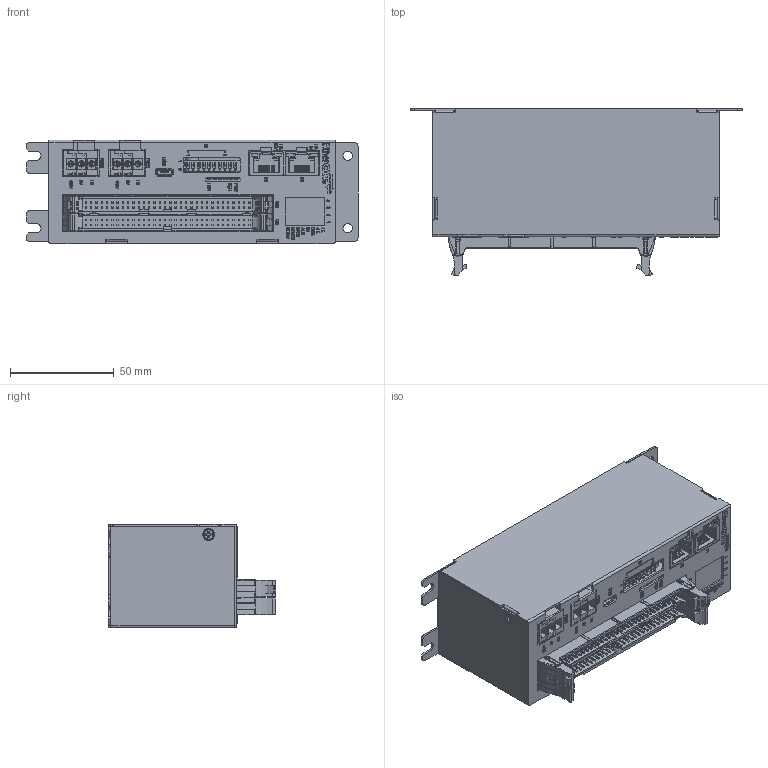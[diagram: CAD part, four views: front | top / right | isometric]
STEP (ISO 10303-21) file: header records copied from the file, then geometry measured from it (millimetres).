
FILE_DESCRIPTION((''),'2;1');
FILE_NAME('ECMM','2026-05-11T16:45:40',('gijyu181'),(''),'CREO PARAMETRIC BY PTC INC, 2018050','CREO PARAMETRIC BY PTC INC, 2018050','');
FILE_SCHEMA(('CONFIG_CONTROL_DESIGN','SHAPE_APPEARANCE_LAYERS_GROUPS'));
Products named in the file (1): ECMM
Bounding box: 160 x 80.82 x 50 mm (x, y, z)
Volume: 89205.1 mm3; surface area: 144644 mm2
Topology: 4 solids, 14 shells, 11617 faces, 31051 edges, 20127 vertices
Faces by surface type: plane 9580, extrusion 1166, cylinder 763, cone 72, torus 18, bspline 12, sphere 6
Entity records: 445971 total; most frequent: CARTESIAN_POINT 73272, ORIENTED_EDGE 62094, DIRECTION 52381, EDGE_CURVE 31051, VECTOR 28055, LINE 26889, VERTEX_POINT 20127, PRESENTATION_STYLE_ASSIGNMENT 15709
